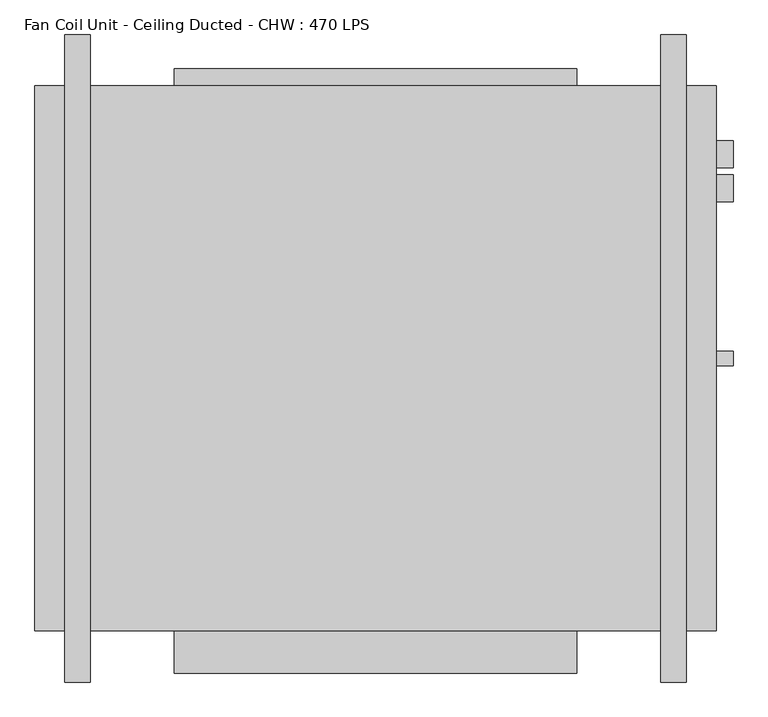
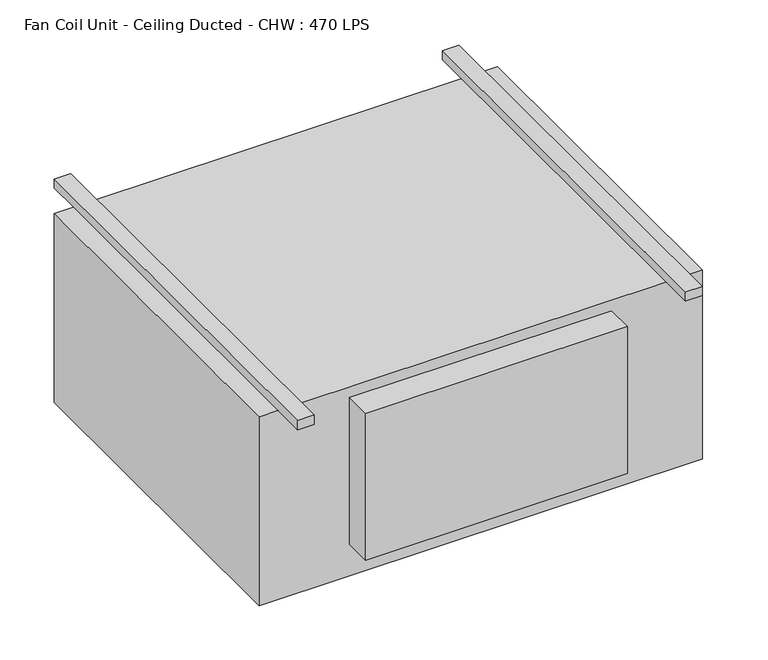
"""IFC4 building model written with IfcOpenShell, lengths in millimetres: proxy geometry, Fan Coil Unit - Ceiling Ducted - CHW : 470 LPS."""

from ifc_helpers import new_model, si_unit, frame, origin, place, context, project, spatial, circle_curve, source, transform, mapped, element, save
from ifc_brep_helpers import plane_surface, cylinder_surface, advanced_brep


def fan_coil_unit_ceiling_ducted_chw_470_lps_09794824(model_context):
    return source(origin(), model_context, "Body", "AdvancedBrep", [
        advanced_brep(
        [(82.55, -889.0, 479.425), (82.55, 76.2, 479.425), (44.45, 76.2, 479.425), (44.45, -889.0, 479.425), (82.55, 76.2, 457.2), (82.55, 0.0, 457.2), (44.45, 0.0, 457.2), (44.45, 76.2, 457.2), (44.45, -889.0, 457.2), (44.45, -812.8, 457.2), (82.55, -812.8, 457.2), (82.55, -889.0, 457.2), (971.55, -889.0, 479.425), (971.55, 76.2, 479.425), (933.45, 76.2, 479.425), (933.45, -889.0, 479.425), (971.55, 76.2, 457.2), (971.55, 0.0, 457.2), (933.45, 0.0, 457.2), (933.45, 76.2, 457.2), (933.45, -889.0, 457.2), (933.45, -812.8, 457.2), (971.55, -812.8, 457.2), (971.55, -889.0, 457.2), (1041.4, -132.4, 381.0), (1041.4, -172.4, 381.0), (1016.0, -172.4, 381.0), (1016.0, -132.4, 381.0), (1041.4, -81.6, 101.6), (1041.4, -121.6, 101.6), (1016.0, -121.6, 101.6), (1016.0, -81.6, 101.6), (1041.4, -395.2875, 38.1), (1041.4, -417.5125, 38.1), (1016.0, -417.5125, 38.1), (1016.0, -395.2875, 38.1), (0.0, -812.8, 457.2), (0.0, 0.0, 457.2), (1016.0, 0.0, 457.2), (1016.0, -812.8, 457.2), (1016.0, -812.8, 0.0), (0.0, -812.8, 0.0), (0.0, 0.0, 0.0), (1016.0, 0.0, 0.0), (808.0, -812.8, 431.8), (808.0, -812.8, 76.2), (208.0, -812.8, 76.2), (208.0, -812.8, 431.8), (208.0, 0.0, 431.8), (208.0, 0.0, 76.2), (808.0, 0.0, 76.2), (808.0, 0.0, 431.8), (808.0, -876.3, 431.8), (208.0, -876.3, 431.8), (808.0, -876.3, 76.2), (208.0, -876.3, 76.2), (808.0, 25.4, 431.8), (208.0, 25.4, 431.8), (208.0, 25.4, 76.2), (808.0, 25.4, 76.2)],
        [
            (0, 1),
            (1, 2),
            (2, 3),
            (3, 0),
            (4, 5),
            (5, 6),
            (6, 7),
            (7, 4),
            (8, 9),
            (9, 10),
            (10, 11),
            (11, 8),
            (3, 8),
            (11, 0),
            (2, 7),
            (6, 9),
            (1, 4),
            (10, 5),
            (12, 13),
            (13, 14),
            (14, 15),
            (15, 12),
            (16, 17),
            (17, 18),
            (18, 19),
            (19, 16),
            (20, 21),
            (21, 22),
            (22, 23),
            (23, 20),
            (15, 20),
            (23, 12),
            (14, 19),
            (18, 21),
            (13, 16),
            (22, 17),
            (24, 25, circle_curve(frame((1041.4, -152.4, 381.0), z_axis=(1.0, 0.0, 0.0), x_axis=(0.0, -1.0, 0.0)), 20.0)),
            (25, 24, circle_curve(frame((1041.4, -152.4, 381.0), z_axis=(1.0, 0.0, 0.0), x_axis=(0.0, -1.0, 0.0)), 20.0)),
            (25, 26),
            (26, 27, circle_curve(frame((1016.0, -152.4, 381.0), z_axis=(1.0, 0.0, 0.0), x_axis=(0.0, -1.0, 0.0)), 20.0)),
            (27, 24),
            (27, 26, circle_curve(frame((1016.0, -152.4, 381.0), z_axis=(1.0, 0.0, 0.0), x_axis=(0.0, -1.0, 0.0)), 20.0)),
            (28, 29, circle_curve(frame((1041.4, -101.6, 101.6), z_axis=(1.0, 0.0, 0.0), x_axis=(0.0, -1.0, 0.0)), 20.0)),
            (29, 28, circle_curve(frame((1041.4, -101.6, 101.6), z_axis=(1.0, 0.0, 0.0), x_axis=(0.0, -1.0, 0.0)), 20.0)),
            (29, 30),
            (30, 31, circle_curve(frame((1016.0, -101.6, 101.6), z_axis=(1.0, 0.0, 0.0), x_axis=(0.0, -1.0, 0.0)), 20.0)),
            (31, 28),
            (31, 30, circle_curve(frame((1016.0, -101.6, 101.6), z_axis=(1.0, 0.0, 0.0), x_axis=(0.0, -1.0, 0.0)), 20.0)),
            (32, 33, circle_curve(frame((1041.4, -406.4, 38.1), z_axis=(1.0, 0.0, 0.0), x_axis=(0.0, -1.0, 0.0)), 11.1125)),
            (33, 32, circle_curve(frame((1041.4, -406.4, 38.1), z_axis=(1.0, 0.0, 0.0), x_axis=(0.0, -1.0, 0.0)), 11.1125)),
            (33, 34),
            (34, 35, circle_curve(frame((1016.0, -406.4, 38.1), z_axis=(1.0, 0.0, 0.0), x_axis=(0.0, -1.0, 0.0)), 11.1125)),
            (35, 32),
            (35, 34, circle_curve(frame((1016.0, -406.4, 38.1), z_axis=(1.0, 0.0, 0.0), x_axis=(0.0, -1.0, 0.0)), 11.1125)),
            (18, 5),
            (10, 21),
            (36, 9),
            (6, 37),
            (37, 36),
            (38, 17),
            (22, 39),
            (39, 38),
            (40, 41),
            (41, 42),
            (42, 43),
            (43, 40),
            (40, 39),
            (36, 41),
            (44, 45),
            (45, 46),
            (46, 47),
            (47, 44),
            (37, 42),
            (38, 43),
            (48, 49),
            (49, 50),
            (50, 51),
            (51, 48),
            (52, 44),
            (47, 53),
            (53, 52),
            (54, 55),
            (55, 46),
            (45, 54),
            (53, 55),
            (54, 52),
            (51, 56),
            (56, 57),
            (57, 48),
            (49, 58),
            (58, 59),
            (59, 50),
            (57, 58),
            (56, 59),
        ],
        [
            plane_surface(frame((44.45, -889.0, 479.425), z_axis=(0.0, 0.0, 1.0), x_axis=(-1.0, 0.0, 0.0))),
            plane_surface(frame((44.45, -889.0, 457.2), z_axis=(0.0, 0.0, -1.0), x_axis=(1.0, 0.0, 0.0))),
            plane_surface(frame((82.55, -889.0, 479.425), z_axis=(0.0, -1.0, 0.0), x_axis=(0.0, 0.0, -1.0))),
            plane_surface(frame((44.45, -889.0, 479.425), z_axis=(-1.0, 0.0, 0.0), x_axis=(0.0, 0.0, -1.0))),
            plane_surface(frame((44.45, 76.2, 479.425), z_axis=(0.0, 1.0, 0.0), x_axis=(0.0, 0.0, -1.0))),
            plane_surface(frame((82.55, 76.2, 479.425), z_axis=(1.0, 0.0, 0.0), x_axis=(0.0, 0.0, -1.0))),
            plane_surface(frame((933.45, -889.0, 479.425), z_axis=(0.0, 0.0, 1.0), x_axis=(-1.0, 0.0, 0.0))),
            plane_surface(frame((933.45, -889.0, 457.2), z_axis=(0.0, 0.0, -1.0), x_axis=(1.0, 0.0, 0.0))),
            plane_surface(frame((971.55, -889.0, 479.425), z_axis=(0.0, -1.0, 0.0), x_axis=(0.0, 0.0, -1.0))),
            plane_surface(frame((933.45, -889.0, 479.425), z_axis=(-1.0, 0.0, 0.0), x_axis=(0.0, 0.0, -1.0))),
            plane_surface(frame((933.45, 76.2, 479.425), z_axis=(0.0, 1.0, 0.0), x_axis=(0.0, 0.0, -1.0))),
            plane_surface(frame((971.55, 76.2, 479.425), z_axis=(1.0, 0.0, 0.0), x_axis=(0.0, 0.0, -1.0))),
            plane_surface(frame((1041.4, -172.4, 381.0), z_axis=(1.0, 0.0, 0.0), x_axis=(0.0, 0.0, 1.0))),
            cylinder_surface(frame((1016.0, -152.4, 381.0), z_axis=(1.0, 0.0, 0.0), x_axis=(0.0, -1.0, 0.0)), 20.0),
            plane_surface(frame((1041.4, -121.6, 101.6), z_axis=(1.0, 0.0, 0.0), x_axis=(0.0, 0.0, 1.0))),
            cylinder_surface(frame((1016.0, -101.6, 101.6), z_axis=(1.0, 0.0, 0.0), x_axis=(0.0, -1.0, 0.0)), 20.0),
            plane_surface(frame((1041.4, -417.5125, 38.1), z_axis=(1.0, 0.0, 0.0), x_axis=(0.0, 0.0, 1.0))),
            cylinder_surface(frame((1016.0, -406.4, 38.1), z_axis=(1.0, 0.0, 0.0), x_axis=(0.0, -1.0, 0.0)), 11.1125),
            plane_surface(frame((0.0, -812.8, 457.2), z_axis=(0.0, 0.0, 1.0), x_axis=(-1.0, 0.0, 0.0))),
            plane_surface(frame((0.0, -812.8, 0.0), z_axis=(0.0, 0.0, -1.0), x_axis=(1.0, 0.0, 0.0))),
            plane_surface(frame((1016.0, -812.8, 457.2), z_axis=(0.0, -1.0, 0.0), x_axis=(0.0, 0.0, -1.0))),
            plane_surface(frame((0.0, -812.8, 457.2), z_axis=(-1.0, 0.0, 0.0), x_axis=(0.0, 0.0, -1.0))),
            plane_surface(frame((0.0, 0.0, 457.2), z_axis=(0.0, 1.0, 0.0), x_axis=(0.0, 0.0, -1.0))),
            plane_surface(frame((1016.0, 0.0, 457.2), z_axis=(1.0, 0.0, 0.0), x_axis=(0.0, 0.0, -1.0))),
            plane_surface(frame((208.0, -876.3, 431.8), z_axis=(0.0, 0.0, 1.0), x_axis=(-1.0, 0.0, 0.0))),
            plane_surface(frame((208.0, -876.3, 76.2), z_axis=(0.0, 0.0, -1.0), x_axis=(1.0, 0.0, 0.0))),
            plane_surface(frame((808.0, -876.3, 431.8), z_axis=(0.0, -1.0, 0.0), x_axis=(0.0, 0.0, -1.0))),
            plane_surface(frame((208.0, -876.3, 431.8), z_axis=(-1.0, 0.0, 0.0), x_axis=(0.0, 0.0, -1.0))),
            plane_surface(frame((808.0, -812.8, 431.8), z_axis=(1.0, 0.0, 0.0), x_axis=(0.0, 0.0, -1.0))),
            plane_surface(frame((208.0, 0.0, 431.8), z_axis=(0.0, 0.0, 1.0), x_axis=(-1.0, 0.0, 0.0))),
            plane_surface(frame((208.0, 0.0, 76.2), z_axis=(0.0, 0.0, -1.0), x_axis=(1.0, 0.0, 0.0))),
            plane_surface(frame((208.0, 0.0, 431.8), z_axis=(-1.0, 0.0, 0.0), x_axis=(0.0, 0.0, -1.0))),
            plane_surface(frame((208.0, 25.4, 431.8), z_axis=(0.0, 1.0, 0.0), x_axis=(0.0, 0.0, -1.0))),
            plane_surface(frame((808.0, 25.4, 431.8), z_axis=(1.0, 0.0, 0.0), x_axis=(0.0, 0.0, -1.0))),
        ],
        [
            (0, [[1, 2, 3, 4]]),
            (1, [[5, 6, 7, 8]]),
            (1, [[9, 10, 11, 12]]),
            (2, [[13, -12, 14, -4]]),
            (3, [[15, -7, 16, -9, -13, -3]]),
            (4, [[17, -8, -15, -2]]),
            (5, [[-14, -11, 18, -5, -17, -1]]),
            (6, [[19, 20, 21, 22]]),
            (7, [[23, 24, 25, 26]]),
            (7, [[27, 28, 29, 30]]),
            (8, [[31, -30, 32, -22]]),
            (9, [[33, -25, 34, -27, -31, -21]]),
            (10, [[35, -26, -33, -20]]),
            (11, [[-32, -29, 36, -23, -35, -19]]),
            (12, [[37, 38]]),
            (13, [[39, 40, 41, -38]]),
            (13, [[-41, 42, -39, -37]]),
            (14, [[43, 44]]),
            (15, [[45, 46, 47, -44]]),
            (15, [[-47, 48, -45, -43]]),
            (16, [[49, 50]]),
            (17, [[51, 52, 53, -50]]),
            (17, [[-53, 54, -51, -49]]),
            (18, [[-34, 55, -18, 56]]),
            (18, [[57, -16, 58, 59]]),
            (18, [[60, -36, 61, 62]]),
            (19, [[63, 64, 65, 66]]),
            (20, [[67, -61, -28, -56, -10, -57, 68, -63], [69, 70, 71, 72]]),
            (21, [[73, -64, -68, -59]]),
            (22, [[-73, -58, -6, -55, -24, -60, 74, -65], [75, 76, 77, 78]]),
            (23, [[-67, -66, -74, -62], [-42, -40], [-48, -46], [-54, -52]]),
            (24, [[79, -72, 80, 81]]),
            (25, [[82, 83, -70, 84]]),
            (26, [[85, -82, 86, -81]]),
            (27, [[-71, -83, -85, -80]]),
            (28, [[-86, -84, -69, -79]]),
            (29, [[-78, 87, 88, 89]]),
            (30, [[-76, 90, 91, 92]]),
            (31, [[93, -90, -75, -89]]),
            (32, [[94, -91, -93, -88]]),
            (33, [[-77, -92, -94, -87]]),
        ],
    ),
    ])


if __name__ == "__main__":
    model = new_model("IFC4")
    model_context = context("Model", 3, world=origin())
    ifc_project = project(units=[si_unit("LENGTHUNIT", "METRE", prefix="MILLI")], contexts=[model_context])
    site = spatial("IfcSite", under=ifc_project)
    building = spatial("IfcBuilding", under=site)
    placement = place(None, origin())
    fan_coil_unit_ceiling_ducted_chw_470_lps_shape = fan_coil_unit_ceiling_ducted_chw_470_lps_09794824(model_context)
    element("IfcBuildingElementProxy", 1, Name="Fan Coil Unit - Ceiling Ducted - CHW : 470 LPS", ObjectType="Fan Coil Unit - Ceiling Ducted - CHW : 470 LPS", at=placement, inside=building, context=model_context, shape_type="MappedRepresentation", body=[
        mapped(fan_coil_unit_ceiling_ducted_chw_470_lps_shape, transform((0.0, 0.0, 0.0), x_axis=(1.0, 0.0, 0.0), y_axis=(0.0, 1.0, 0.0), z_axis=(0.0, 0.0, 1.0))),
    ])
    save(model, "model.ifc")
